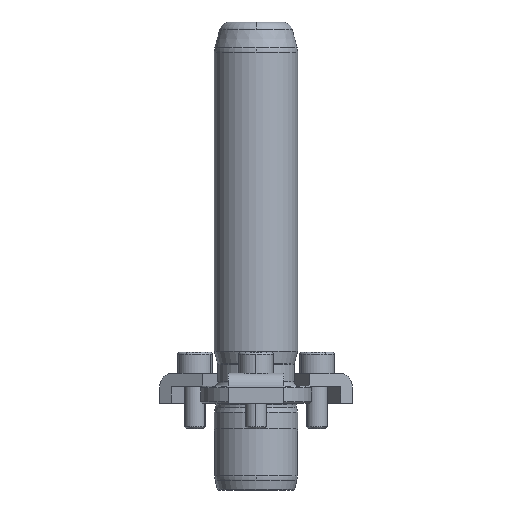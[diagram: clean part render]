
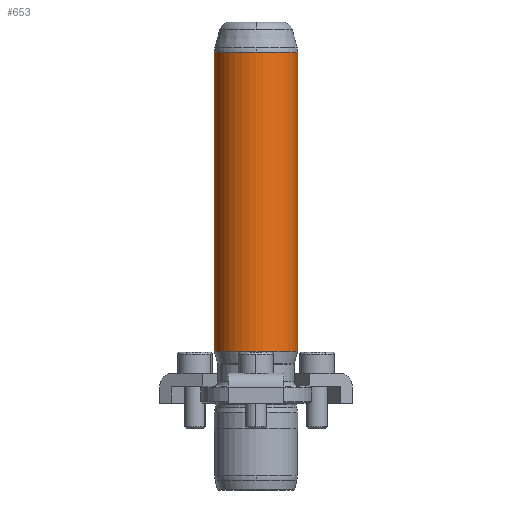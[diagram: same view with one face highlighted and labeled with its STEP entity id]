
A CAD part, front view. The second image highlights one B-rep face of the part: STEP entity #653.
In plain terms, the highlighted cylindrical face has radius 12 mm (diameter 24 mm), a partial arc.
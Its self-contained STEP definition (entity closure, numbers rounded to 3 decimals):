
#566=CARTESIAN_POINT('',(0.0,-12.,101.342));
#567=VERTEX_POINT('',#566);
#594=CARTESIAN_POINT('',(-12.0,0.,101.342));
#595=VERTEX_POINT('',#594);
#603=CARTESIAN_POINT('',(0.0,0.,101.342));
#604=DIRECTION('',(0.0,0.0,1.0));
#605=DIRECTION('',(1.0,0.0,0.0));
#606=AXIS2_PLACEMENT_3D('',#603,#604,#605);
#607=CIRCLE('',#606,12.0);
#608=EDGE_CURVE('',#595,#567,#607,.T.);
#613=CARTESIAN_POINT('',(0.0,0.,58.171));
#614=DIRECTION('',(0.0,0.,1.0));
#615=DIRECTION('',(1.0,0.0,0.0));
#616=AXIS2_PLACEMENT_3D('',#613,#614,#615);
#617=CYLINDRICAL_SURFACE('',#616,12.0);
#618=CARTESIAN_POINT('',(12.0,0.,101.342));
#619=VERTEX_POINT('',#618);
#620=CARTESIAN_POINT('',(12.0,0.,15.0));
#621=VERTEX_POINT('',#620);
#622=CARTESIAN_POINT('',(12.0,0.,101.342));
#623=DIRECTION('',(0.0,0.0,-1.0));
#624=VECTOR('',#623,86.342);
#625=LINE('',#622,#624);
#626=EDGE_CURVE('',#619,#621,#625,.T.);
#627=ORIENTED_EDGE('',*,*,#626,.F.);
#628=CARTESIAN_POINT('',(0.0,0.,101.342));
#629=DIRECTION('',(0.0,0.0,1.0));
#630=DIRECTION('',(1.0,0.0,0.0));
#631=AXIS2_PLACEMENT_3D('',#628,#629,#630);
#632=CIRCLE('',#631,12.0);
#633=EDGE_CURVE('',#567,#619,#632,.T.);
#634=ORIENTED_EDGE('',*,*,#633,.F.);
#635=ORIENTED_EDGE('',*,*,#608,.F.);
#636=CARTESIAN_POINT('',(-12.,0.,15.0));
#637=VERTEX_POINT('',#636);
#638=CARTESIAN_POINT('',(-12.0,0.,101.342));
#639=DIRECTION('',(0.0,0.0,-1.0));
#640=VECTOR('',#639,86.342);
#641=LINE('',#638,#640);
#642=EDGE_CURVE('',#595,#637,#641,.T.);
#643=ORIENTED_EDGE('',*,*,#642,.T.);
#644=CARTESIAN_POINT('',(0.0,0.,15.0));
#645=DIRECTION('',(0.0,0.0,1.0));
#646=DIRECTION('',(1.0,0.0,0.0));
#647=AXIS2_PLACEMENT_3D('',#644,#645,#646);
#648=CIRCLE('',#647,12.0);
#649=EDGE_CURVE('',#637,#621,#648,.T.);
#650=ORIENTED_EDGE('',*,*,#649,.T.);
#651=EDGE_LOOP('',(#627,#634,#635,#643,#650));
#652=FACE_OUTER_BOUND('',#651,.T.);
#653=ADVANCED_FACE('',(#652),#617,.T.);
